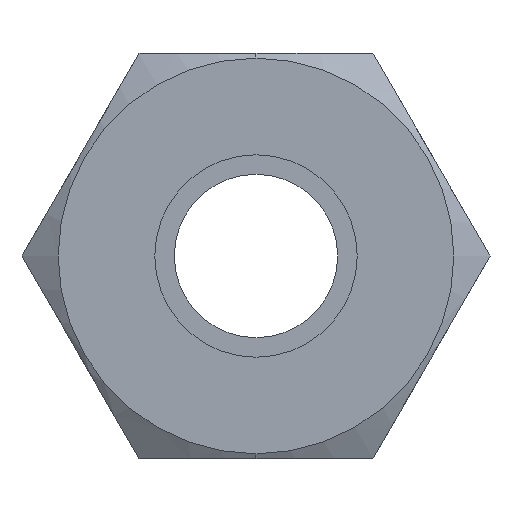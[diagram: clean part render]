
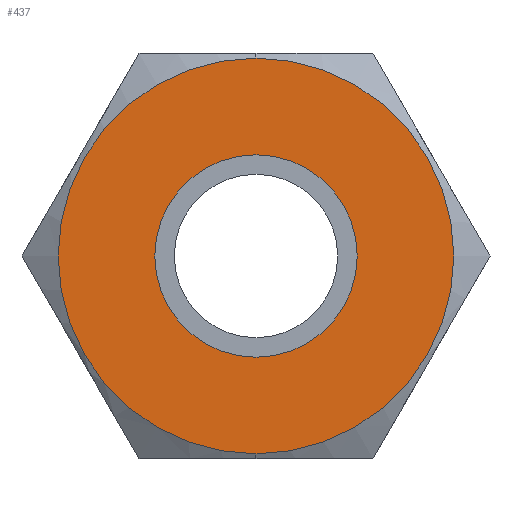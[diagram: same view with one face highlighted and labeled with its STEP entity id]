
A CAD part, left-side view. The second image highlights one B-rep face of the part: STEP entity #437.
In plain terms, the highlighted planar face has unit normal (-1, 0, 0).
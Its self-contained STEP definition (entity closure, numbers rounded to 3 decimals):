
#21 = VERTEX_POINT ( 'NONE', #756 ) ;
#23 = EDGE_CURVE ( 'NONE', #24, #21, #755, .T. ) ;
#24 = VERTEX_POINT ( 'NONE', #750 ) ;
#76 = VERTEX_POINT ( 'NONE', #1043 ) ;
#78 = EDGE_CURVE ( 'NONE', #76, #79, #992, .T. ) ;
#79 = VERTEX_POINT ( 'NONE', #987 ) ;
#336 = ORIENTED_EDGE ( 'NONE', *, *, #337, .F. ) ;
#337 = EDGE_CURVE ( 'NONE', #79, #76, #1451, .T. ) ;
#338 = ORIENTED_EDGE ( 'NONE', *, *, #78, .F. ) ;
#339 = EDGE_LOOP ( 'NONE', ( #340, #341 ) ) ;
#340 = ORIENTED_EDGE ( 'NONE', *, *, #23, .T. ) ;
#341 = ORIENTED_EDGE ( 'NONE', *, *, #342, .T. ) ;
#342 = EDGE_CURVE ( 'NONE', #21, #24, #1435, .T. ) ;
#437 = ADVANCED_FACE ( 'NONE', ( #2122, #2121 ), #2120, .T. ) ;
#438 = EDGE_LOOP ( 'NONE', ( #336, #338 ) ) ;
#750 = CARTESIAN_POINT ( 'NONE',  ( -18.6, 0., 7.75 ) ) ;
#751 = DIRECTION ( 'NONE',  ( 0., 0., 1. ) ) ;
#752 = DIRECTION ( 'NONE',  ( -1., 0., 0. ) ) ;
#753 = CARTESIAN_POINT ( 'NONE',  ( -18.6, 0., 0. ) ) ;
#754 = AXIS2_PLACEMENT_3D ( 'NONE', #753, #752, #751 ) ;
#755 = CIRCLE ( 'NONE', #754, 7.75 ) ;
#756 = CARTESIAN_POINT ( 'NONE',  ( -18.6, 0., -7.75 ) ) ;
#987 = CARTESIAN_POINT ( 'NONE',  ( -18.6, 0., 3.965 ) ) ;
#988 = DIRECTION ( 'NONE',  ( 0., 0., 1. ) ) ;
#989 = DIRECTION ( 'NONE',  ( -1., 0., 0. ) ) ;
#990 = CARTESIAN_POINT ( 'NONE',  ( -18.6, 0., 0. ) ) ;
#991 = AXIS2_PLACEMENT_3D ( 'NONE', #990, #989, #988 ) ;
#992 = CIRCLE ( 'NONE', #991, 3.965 ) ;
#1043 = CARTESIAN_POINT ( 'NONE',  ( -18.6, 0., -3.965 ) ) ;
#1431 = DIRECTION ( 'NONE',  ( 0., 0., 1. ) ) ;
#1432 = DIRECTION ( 'NONE',  ( -1., 0., 0. ) ) ;
#1433 = CARTESIAN_POINT ( 'NONE',  ( -18.6, 0., 0. ) ) ;
#1434 = AXIS2_PLACEMENT_3D ( 'NONE', #1433, #1432, #1431 ) ;
#1435 = CIRCLE ( 'NONE', #1434, 7.75 ) ;
#1436 = DIRECTION ( 'NONE',  ( 0., 0., 1. ) ) ;
#1437 = DIRECTION ( 'NONE',  ( -1., 0., 0. ) ) ;
#1438 = AXIS2_PLACEMENT_3D ( 'NONE', #1452, #1437, #1436 ) ;
#1451 = CIRCLE ( 'NONE', #1438, 3.965 ) ;
#1452 = CARTESIAN_POINT ( 'NONE',  ( -18.6, 0., 0. ) ) ;
#2115 = DIRECTION ( 'NONE',  ( 0., 0., 1. ) ) ;
#2116 = DIRECTION ( 'NONE',  ( -1., 0., 0. ) ) ;
#2117 = AXIS2_PLACEMENT_3D ( 'NONE', #2119, #2116, #2115 ) ;
#2119 = CARTESIAN_POINT ( 'NONE',  ( -18.6, 9.168, 0. ) ) ;
#2120 = PLANE ( 'NONE',  #2117 ) ;
#2121 = FACE_OUTER_BOUND ( 'NONE', #339, .T. ) ;
#2122 = FACE_BOUND ( 'NONE', #438, .T. ) ;
